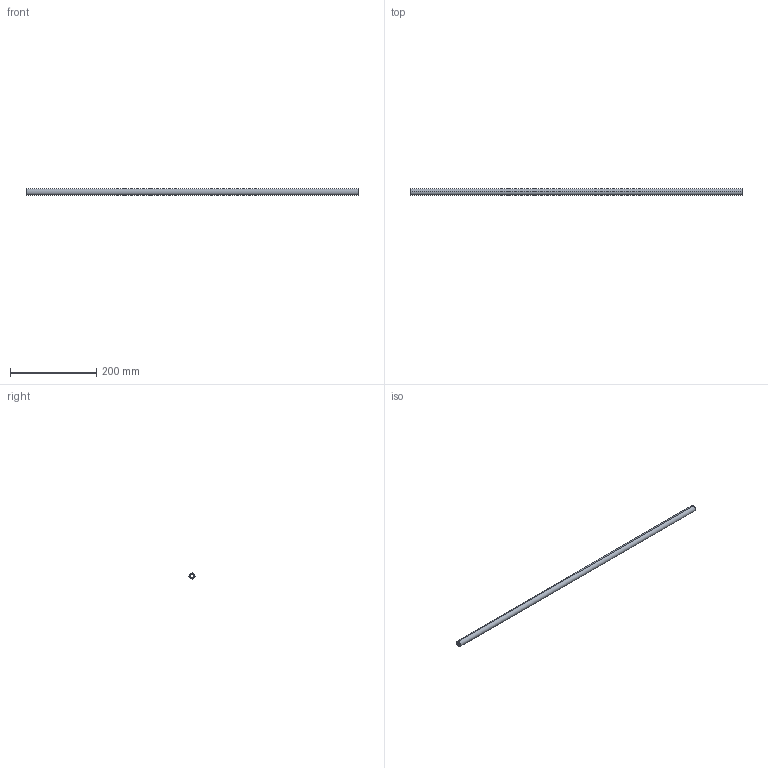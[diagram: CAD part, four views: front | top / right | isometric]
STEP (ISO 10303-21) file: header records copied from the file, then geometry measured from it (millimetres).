
FILE_DESCRIPTION (( 'STEP AP214' ), '1' );
FILE_NAME ('SyncronisationsstangeXP_KAB_900_16.step', '2009-11-24T08:53:26', ( 'Grass' ), ( 'Grass GmbH' ), 'SwSTEP 2.0', 'SolidWorks 2009', '' );
FILE_SCHEMA (( 'AUTOMOTIVE_DESIGN' ));
Length unit declared in the file: millimetre
Products named in the file (1): SyncronisationsstangeXP_KAB_900_16
Bounding box: 771 x 14 x 14 mm (x, y, z)
Volume: 83368 mm3; surface area: 53772.4 mm2
Topology: 1 solids, 1 shells, 15 faces, 39 edges, 26 vertices
Faces by surface type: cylinder 11, plane 4
Entity records: 513 total; most frequent: DIRECTION 93, CARTESIAN_POINT 81, ORIENTED_EDGE 78, EDGE_CURVE 39, AXIS2_PLACEMENT_3D 38, VERTEX_POINT 26, CIRCLE 22, VECTOR 17
